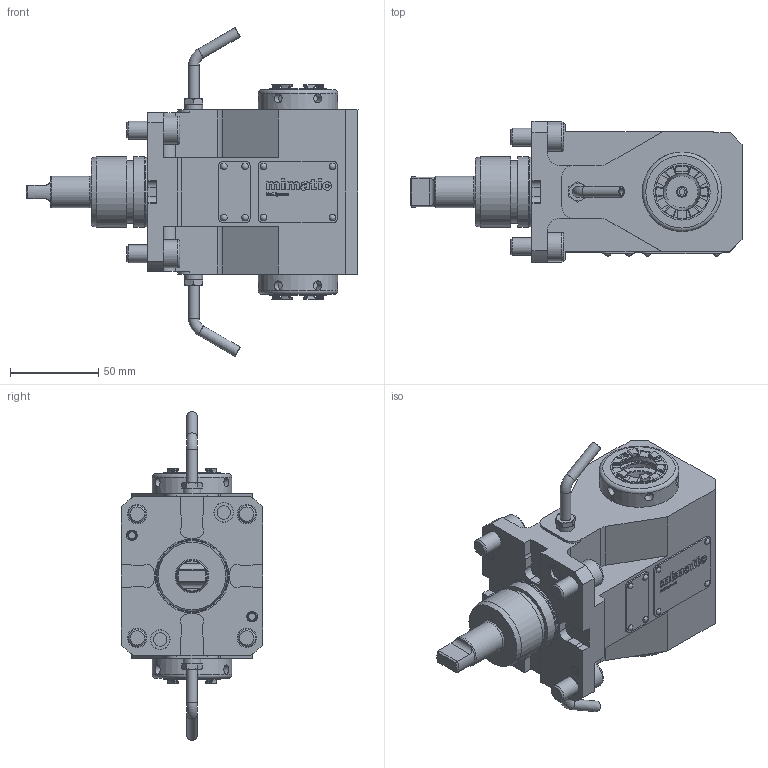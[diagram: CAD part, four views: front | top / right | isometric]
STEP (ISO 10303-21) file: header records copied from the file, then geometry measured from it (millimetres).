
FILE_DESCRIPTION(/* description */ (''),/* implementation_level */ '2;1');
FILE_NAME(/* name */ '176317',/* time_stamp */ '2023-04-20T14:44:00+02:00',/* author */ (''),/* organization */ (''),/* preprocessor_version */ 'ST-DEVELOPER v16.5',/* originating_system */ 'HiCAD 2017 2201.0 Build 268',/* authorisation */ '');
FILE_SCHEMA (('AUTOMOTIVE_DESIGN { 1 0 10303 214 1 1 1 1 }'));
Products named in the file (18): Root; Teil; QRSTUVWXYZ[\]^_`ABCDEFGHIJKLMNOPQRSTUVWXYZ{|}~\X2\20AC0081201A0191
201E20262020202102C62030016020390152008D017D008F009020182019201C201D2022
2013201402DC21220160203A0152009D017D017800A000A100A200A300A400A500A600A7
00A800A900AA00AB00AC00AD00AE00AF00B000B100B200B300B4F5C2FFFD7FFE\X0\; GEWINDE; DIN 13-M6; DIN 76-M6
Assembly tree (17 placements, depth 3):
  Root
    Teil
      QRSTUVWXYZ[\]^_`ABCDEFGHIJKLMNOPQRSTUVWXYZ{|}~\X2\20AC0081201A0191
201E20262020202102C62030016020390152008D017D008F009020182019201C201D2022
2013201402DC21220160203A0152009D017D017800A000A100A200A300A400A500A600A7
00A800A900AA00AB00AC00AD00AE00AF00B000B100B200B300B4F5C2FFFD7FFE\X0\
      QRSTUVWXYZ[\]^_`ABCDEFGHIJKLMNOPQRSTUVWXYZ{|}~\X2\20AC0081201A0191
201E20262020202102C62030016020390152008D017D008F009020182019201C201D2022
2013201402DC21220160203A0152009D017D017800A000A100A200A300A400A500A600A7
00A800A900AA00AB00AC00AD00AE00AF00B000B100B200B300B4F5C2FFFD7FFE\X0\
      GEWINDE
      GEWINDE
      GEWINDE
      GEWINDE
      GEWINDE
      GEWINDE
      GEWINDE
      GEWINDE
      GEWINDE
      GEWINDE
      DIN 13-M6
      DIN 13-M6
      DIN 76-M6
      DIN 76-M6
Bounding box: 188 x 80 x 186.05 mm (x, y, z)
Volume: 715962.2 mm3; surface area: 97478.1 mm2
Topology: 23 solids, 31 shells, 953 faces, 2381 edges, 1561 vertices
Faces by surface type: plane 487, cylinder 334, cone 48, torus 38, bspline 38, sphere 8
Full cylindrical faces by diameter (mm): 2.2 x8, 4 x4, 4.773 x8, 5 x5, 5.1 x6, 5.3 x6, 6 x16, 7.65 x2, 8.16 x8, 8.773 x4, 10 x10, 11 x4, 11.01 x2, 11.1 x2, 16 x4, 17.8 x1, 18.2 x2, 21 x2, 29 x1, 30.16 x4, 32 x4, 32.5 x1, 33 x1, 35.4 x1, 39.5 x1, 39.9 x2, 45 x2
Entity records: 106899 total; most frequent: CARTESIAN_POINT 61096, PRESENTATION_STYLE_ASSIGNMENT 4731, OVER_RIDING_STYLED_ITEM 4714, COLOUR_RGB 4305, DIRECTION 4304, DRAUGHTING_PRE_DEFINED_CURVE_FONT 4298, CURVE_STYLE 4298, ORIENTED_EDGE 4298
